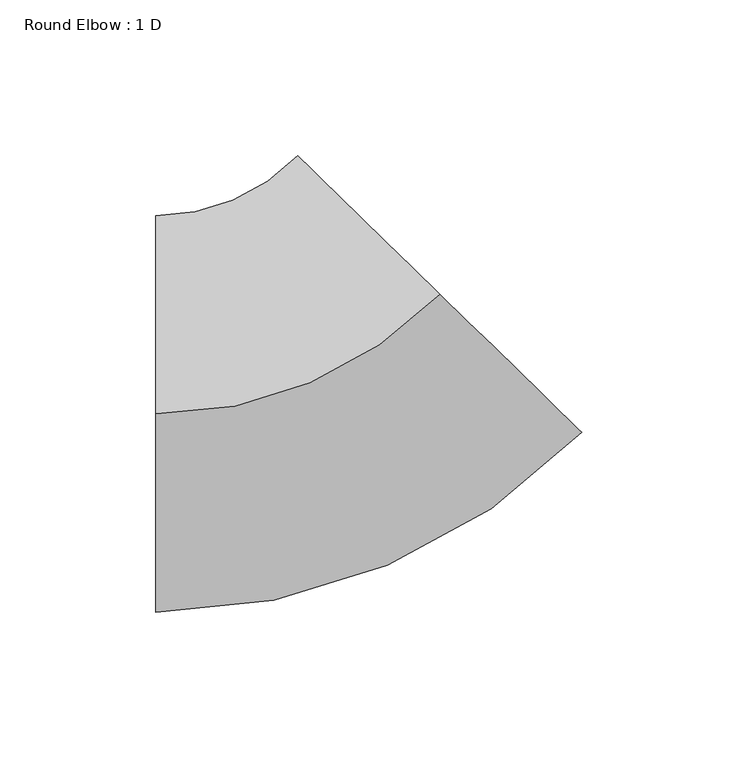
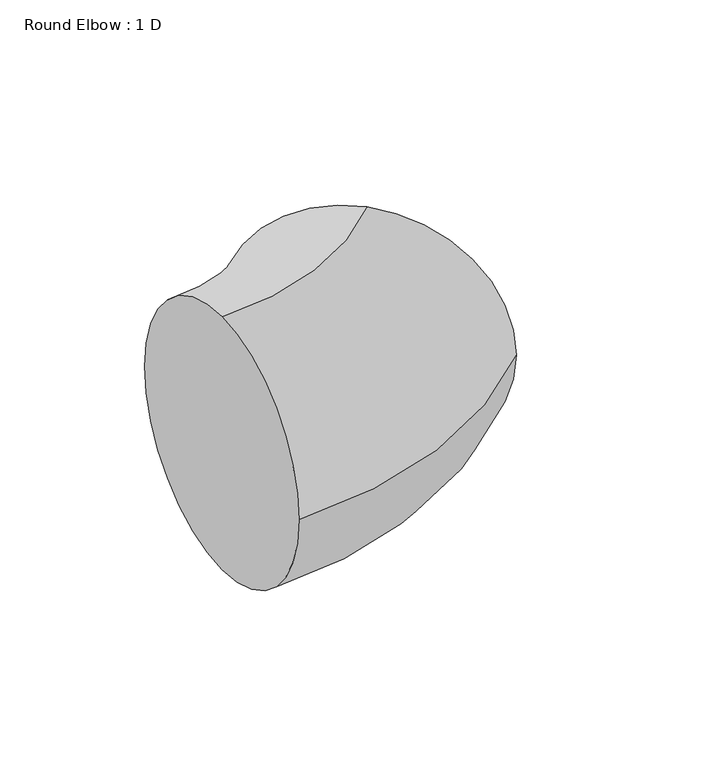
"""IFC4 building model written with IfcOpenShell, lengths in millimetres: duct fitting geometry, Round Elbow : 1 D."""

from ifc_helpers import new_model, si_unit, point, frame, origin, place, context, project, spatial, circle_curve, ellipse_curve, trimmed, source, transform, mapped, element, save
from ifc_brep_helpers import plane_surface, revolved_surface, advanced_brep


def round_elbow_1_d_92ecc58d(model_context):
    return source(origin(), model_context, "Body", "AdvancedBrep", [
        advanced_brep(
        [(-53.6025148, 0.0, 63.5), (-53.6025148, 63.5, 0.0), (-53.6025148, 0.0, -63.5), (-53.6025148, -63.5, 0.0), (37.3925926, 38.4060362, 63.5), (82.8901463, -5.8909458, 0.0), (37.3925926, 38.4060362, -63.5), (-8.1049611, 82.7030181, 0.0)],
        [
            (0, 1, circle_curve(frame((-53.6025148, 0.0, 0.0), z_axis=(-1.0, 0.0, 0.0), x_axis=(0.0, 1.0, 0.0)), 63.5)),
            (1, 2, circle_curve(frame((-53.6025148, 0.0, 0.0), z_axis=(-1.0, 0.0, 0.0), x_axis=(0.0, 1.0, 0.0)), 63.5)),
            (2, 3, circle_curve(frame((-53.6025148, 0.0, 0.0), z_axis=(-1.0, 0.0, 0.0), x_axis=(0.0, 1.0, 0.0)), 63.5)),
            (3, 0, circle_curve(frame((-53.6025148, 0.0, 0.0), z_axis=(-1.0, 0.0, 0.0), x_axis=(0.0, 1.0, 0.0)), 63.5)),
            (4, 5, circle_curve(frame((37.3925926, 38.4060362, 0.0), z_axis=(0.6975902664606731, 0.7164969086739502, 0.0), x_axis=(-0.7164969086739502, 0.6975902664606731, 0.0)), 63.5)),
            (5, 6, circle_curve(frame((37.3925926, 38.4060362, 0.0), z_axis=(0.6975902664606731, 0.7164969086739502, 0.0), x_axis=(-0.7164969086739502, 0.6975902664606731, 0.0)), 63.5)),
            (6, 7, circle_curve(frame((37.3925926, 38.4060362, 0.0), z_axis=(0.6975902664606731, 0.7164969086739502, 0.0), x_axis=(-0.7164969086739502, 0.6975902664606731, 0.0)), 63.5)),
            (7, 4, circle_curve(frame((37.3925926, 38.4060362, 0.0), z_axis=(0.6975902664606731, 0.7164969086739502, 0.0), x_axis=(-0.7164969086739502, 0.6975902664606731, 0.0)), 63.5)),
            (7, 1, circle_curve(frame((-53.6025148, 127.0, 0.0), z_axis=(0.0, 0.0, -1.0), x_axis=(0.0, -1.0, 0.0)), 63.5)),
            (0, 4, circle_curve(frame((-53.6025148, 127.0, 63.5), z_axis=(0.0, 0.0, 1.0), x_axis=(0.0, -1.0, 0.0)), 127.0)),
            (6, 2, circle_curve(frame((-53.6025148, 127.0, -63.5), z_axis=(0.0, 0.0, -1.0), x_axis=(0.0, -1.0, 0.0)), 127.0)),
            (5, 3, circle_curve(frame((-53.6025148, 127.0, 0.0), z_axis=(0.0, 0.0, -1.0), x_axis=(0.0, -1.0, 0.0)), 190.5)),
        ],
        [
            plane_surface(frame((-53.6025148, 0.0, 0.0), z_axis=(-1.0, 0.0, 0.0), x_axis=(0.0, 0.0, 1.0))),
            plane_surface(frame((37.3925926, 38.4060362, 0.0), z_axis=(0.6975902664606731, 0.7164969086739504, 0.0), x_axis=(0.0, 0.0, 1.0))),
            revolved_surface(trimmed(ellipse_curve(frame((-53.6025148, 0.0, 0.0), z_axis=(-1.0, 0.0, 0.0), x_axis=(0.0, 1.0, 0.0)), 63.5, 63.5), [point((-53.6025148, 0.0, 63.5))], [point((-53.6025148, 63.5, 0.0))], True, "CARTESIAN"), (-53.6025148, 127.0, 0.0), (0.0, 0.0, 1.0)),
            revolved_surface(trimmed(ellipse_curve(frame((-53.6025148, 0.0, 0.0), z_axis=(-1.0, 0.0, 0.0), x_axis=(0.0, 1.0, 0.0)), 63.5, 63.5), [point((-53.6025148, 63.5, 0.0))], [point((-53.6025148, 0.0, -63.5))], True, "CARTESIAN"), (-53.6025148, 127.0, 0.0), (0.0, 0.0, 1.0)),
            revolved_surface(trimmed(ellipse_curve(frame((-53.6025148, 0.0, 0.0), z_axis=(-1.0, 0.0, 0.0), x_axis=(0.0, 1.0, 0.0)), 63.5, 63.5), [point((-53.6025148, 0.0, -63.5))], [point((-53.6025148, -63.5, 0.0))], True, "CARTESIAN"), (-53.6025148, 127.0, 0.0), (0.0, 0.0, 1.0)),
            revolved_surface(trimmed(ellipse_curve(frame((-53.6025148, 0.0, 0.0), z_axis=(-1.0, 0.0, 0.0), x_axis=(0.0, 1.0, 0.0)), 63.5, 63.5), [point((-53.6025148, -63.5, 0.0))], [point((-53.6025148, 0.0, 63.5))], True, "CARTESIAN"), (-53.6025148, 127.0, 0.0), (0.0, 0.0, 1.0)),
        ],
        [
            (0, [[1, 2, 3, 4]]),
            (1, [[5, 6, 7, 8]]),
            (2, [[9, -1, 10, -8]]),
            (3, [[11, -2, -9, -7]]),
            (4, [[12, -3, -11, -6]]),
            (5, [[-10, -4, -12, -5]]),
        ],
    ),
    ])


if __name__ == "__main__":
    model = new_model("IFC4")
    model_context = context("Model", 3, world=origin())
    ifc_project = project(units=[si_unit("LENGTHUNIT", "METRE", prefix="MILLI")], contexts=[model_context])
    site = spatial("IfcSite", under=ifc_project)
    building = spatial("IfcBuilding", under=site)
    placement = place(None, origin())
    round_elbow_1_d_shape = round_elbow_1_d_92ecc58d(model_context)
    element("IfcDuctFitting", 1, ObjectType="Round Elbow : 1 D", at=placement, inside=building, context=model_context, shape_type="MappedRepresentation", body=[
        mapped(round_elbow_1_d_shape, transform((0.0, 0.0, 0.0), x_axis=(1.0, 0.0, 0.0), y_axis=(0.0, 1.0, 0.0), z_axis=(0.0, 0.0, 1.0))),
    ])
    save(model, "model.ifc")
